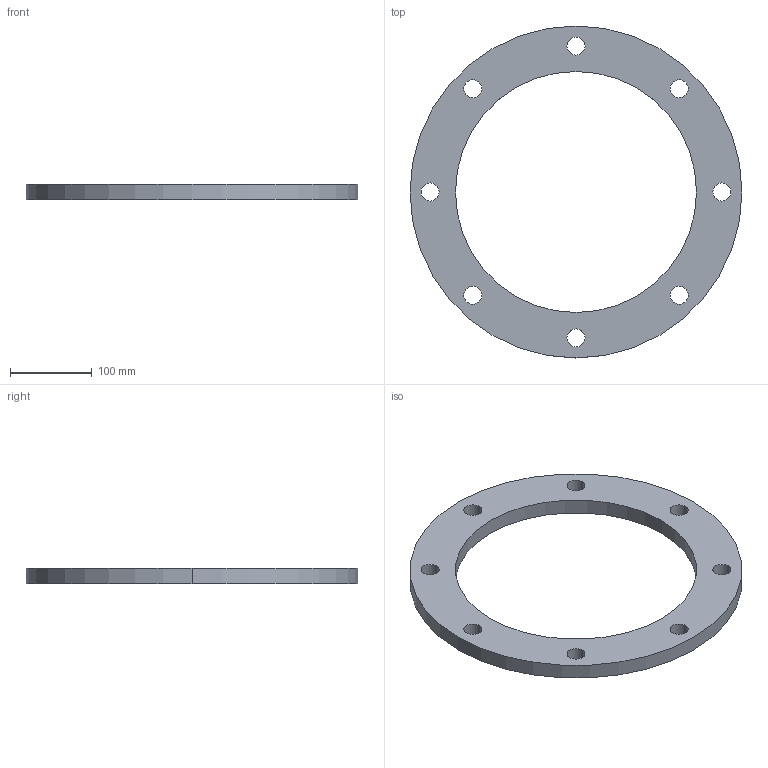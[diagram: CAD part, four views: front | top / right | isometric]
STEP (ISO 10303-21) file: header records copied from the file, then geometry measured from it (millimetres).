
FILE_DESCRIPTION (( 'STEP AP214' ), '1' );
FILE_NAME ('BRD280PN16SS.STEP', '2021-05-14T12:16:33', ( 'D002203' ), ( 'Fusion Group Ltd.' ), 'SwSTEP 2.0', 'SolidWorks 2019', '' );
FILE_SCHEMA (( 'AUTOMOTIVE_DESIGN' ));
Length unit declared in the file: millimetre
Products named in the file (1): BRD280PN16SS
Bounding box: 405 x 405 x 19 mm (x, y, z)
Volume: 1100046.7 mm3; surface area: 168023.4 mm2
Topology: 1 solids, 1 shells, 22 faces, 60 edges, 40 vertices
Faces by surface type: cylinder 20, plane 2
Entity records: 794 total; most frequent: DIRECTION 146, CARTESIAN_POINT 123, ORIENTED_EDGE 120, AXIS2_PLACEMENT_3D 63, EDGE_CURVE 60, CIRCLE 40, VERTEX_POINT 40, EDGE_LOOP 40
